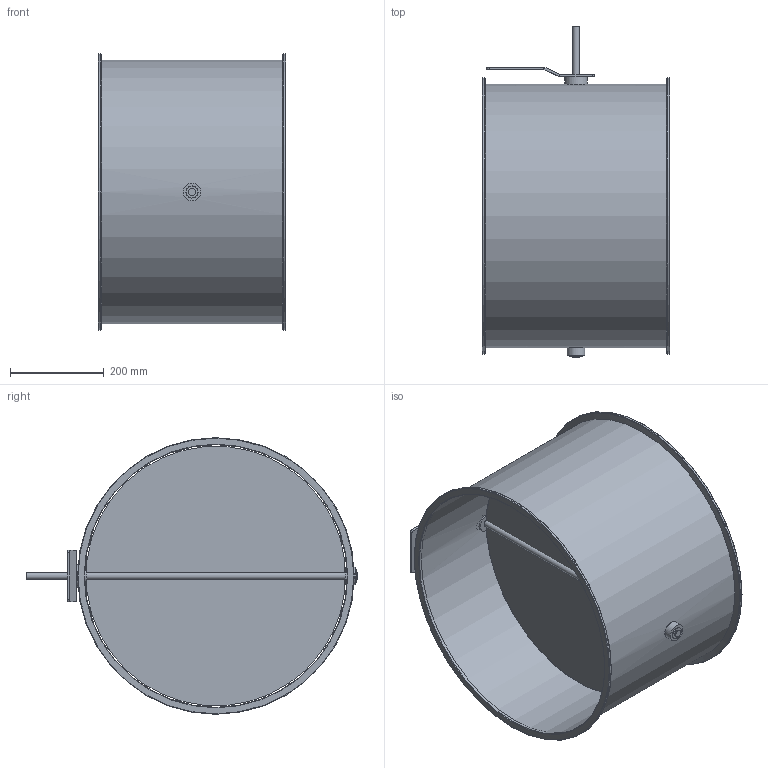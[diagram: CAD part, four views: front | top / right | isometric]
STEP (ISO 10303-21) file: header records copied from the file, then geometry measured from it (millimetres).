
FILE_DESCRIPTION(/* description */ (''),/* implementation_level */ '2;1');
FILE_NAME(/* name */ 'EA111-80B__560_L400_Belimo_Typen_NF_SF.stp',/* time_stamp */ '2017-12-07T10:39:41+01:00',/* author */ (''),/* organization */ (''),/* preprocessor_version */ 'ST-DEVELOPER v11',/* originating_system */ 'SIEMENS UGS NX 6.0',/* authorisation */ '');
FILE_SCHEMA (('CONFIG_CONTROL_DESIGN'));
Length unit declared in the file: millimetre
Products named in the file (1): gars5544kx7j
Bounding box: 400 x 706 x 590 mm (x, y, z)
Volume: 1646318.7 mm3; surface area: 2096148.6 mm2
Topology: 8 solids, 8 shells, 78 faces, 164 edges, 104 vertices
Faces by surface type: plane 36, cylinder 34, torus 6, cone 2
Full cylindrical faces by diameter (mm): 6.1 x6, 15 x3, 25 x3, 25.85 x2, 26 x2, 38 x3, 49 x1, 560 x1, 562 x1, 590 x2
Entity records: 2028 total; most frequent: CARTESIAN_POINT 363, DIRECTION 346, ORIENTED_EDGE 244, AXIS2_PLACEMENT_3D 149, EDGE_LOOP 140, EDGE_CURVE 122, FACE_BOUND 110, VERTEX_POINT 94
